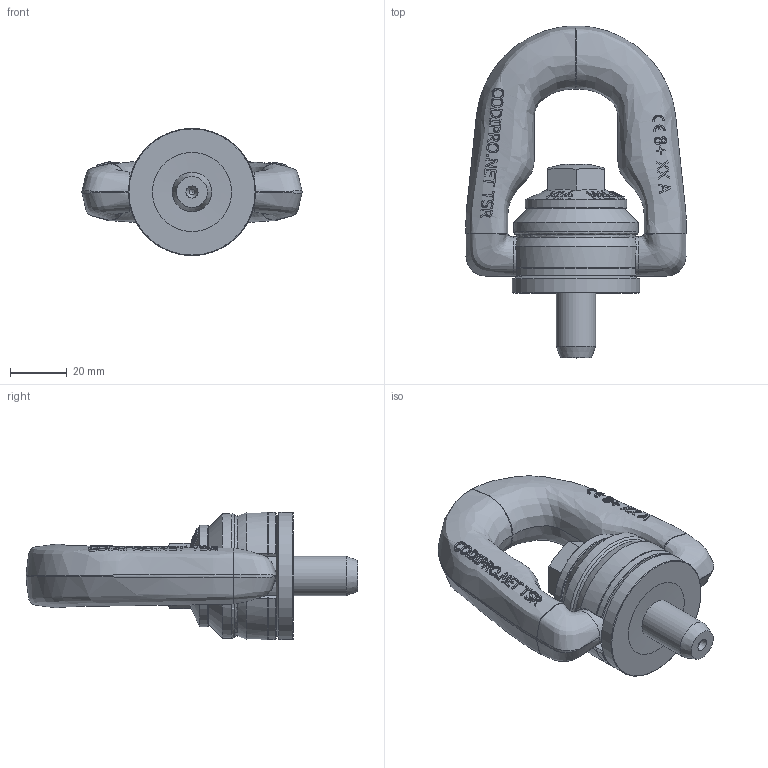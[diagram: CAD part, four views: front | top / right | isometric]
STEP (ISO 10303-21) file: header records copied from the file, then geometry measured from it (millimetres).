
FILE_DESCRIPTION(/* description */ (''),/* implementation_level */ '2;1');
FILE_NAME(/* name */ 'W:\CODIPRO\DOCUMENTS\Plans A NE PAS DIFFUSER !!!\Inventor\Standard Inventor\Produit Fini Inventor\DSP\Fichiers 3D\DSP M14.stp',/* time_stamp */ '2017-10-06T08:45:23+02:00',/* author */ ('rklenes'),/* organization */ (''),/* preprocessor_version */ 'ST-DEVELOPER v16.5',/* originating_system */ 'Autodesk Inventor 2017',/* authorisation */ '');
FILE_SCHEMA (('AUTOMOTIVE_DESIGN { 1 0 10303 214 3 1 1 }'));
Length unit declared in the file: millimetre
Products named in the file (5): DSP M14; DRA_M14X53; DRB_B2B; TSM_AO2C; DRE_D2M14A
Assembly tree (4 placements, depth 2):
  DSP M14
    DRA_M14X53
    DRB_B2B
    TSM_AO2C
    DRE_D2M14A
Bounding box: 77.89 x 117.5 x 45 mm (x, y, z)
Volume: 114084.2 mm3; surface area: 32783.6 mm2
Topology: 4 solids, 4 shells, 548 faces, 1436 edges, 928 vertices
Faces by surface type: plane 278, bspline 192, cone 35, cylinder 29, torus 11, sphere 3
Full cylindrical faces by diameter (mm): 2 x1, 14 x6, 14.2 x1, 22.6 x2, 23 x2, 32 x1, 36 x1, 44 x1, 45 x1
Entity records: 26817 total; most frequent: CARTESIAN_POINT 15029, ORIENTED_EDGE 2770, DIRECTION 1736, EDGE_CURVE 1385, VERTEX_POINT 924, EDGE_LOOP 631, AXIS2_PLACEMENT_3D 613, FACE_OUTER_BOUND 548
